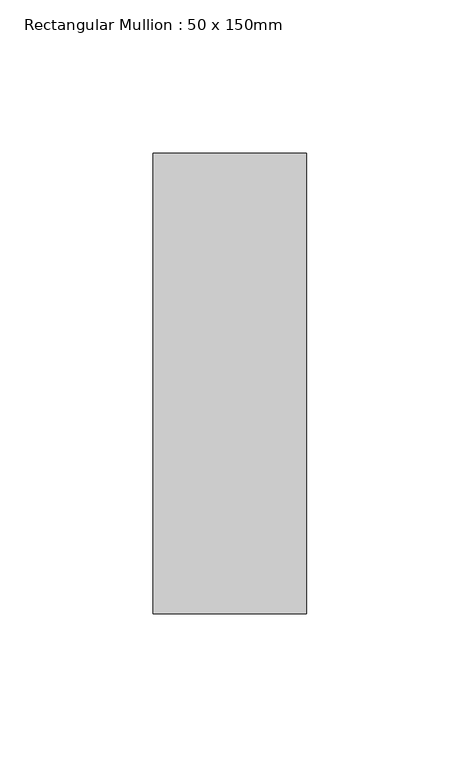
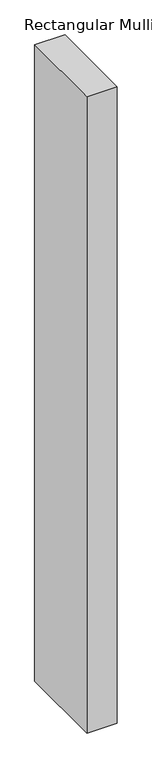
"""IFC4 building model written with IfcOpenShell, lengths in millimetres: member geometry, Rectangular Mullion : 50 x 150mm."""

from ifc_helpers import new_model, si_unit, frame, origin, place, context, project, spatial, polyline, outline, extrude, source, transform, mapped, element, save


def rectangular_mullion_50_x_150mm_ab54daf0(model_context):
    return source(origin(), model_context, "Body", "SweptSolid", [
        extrude(outline(polyline([(0.0, 75.0), (0.0, -75.0), (-50.0, -75.0), (-50.0, 75.0), (0.0, 75.0)])), frame((0.0, 0.0, -1115.0), z_axis=(0.0, 0.0, 1.0), x_axis=(1.0, 0.0, 0.0)), (0.0, 0.0, 1.0), 1115.0),
    ])


if __name__ == "__main__":
    model = new_model("IFC4")
    model_context = context("Model", 3, world=origin())
    ifc_project = project(units=[si_unit("LENGTHUNIT", "METRE", prefix="MILLI")], contexts=[model_context])
    site = spatial("IfcSite", under=ifc_project)
    building = spatial("IfcBuilding", under=site)
    placement = place(None, origin())
    rectangular_mullion_50_x_150mm_shape = rectangular_mullion_50_x_150mm_ab54daf0(model_context)
    element("IfcMember", 1, ObjectType="Rectangular Mullion : 50 x 150mm", at=placement, inside=building, context=model_context, shape_type="MappedRepresentation", body=[
        mapped(rectangular_mullion_50_x_150mm_shape, transform((0.0, 0.0, 0.0), x_axis=(1.0, 0.0, 0.0), y_axis=(0.0, 1.0, 0.0), z_axis=(0.0, 0.0, 1.0))),
    ])
    save(model, "model.ifc")
